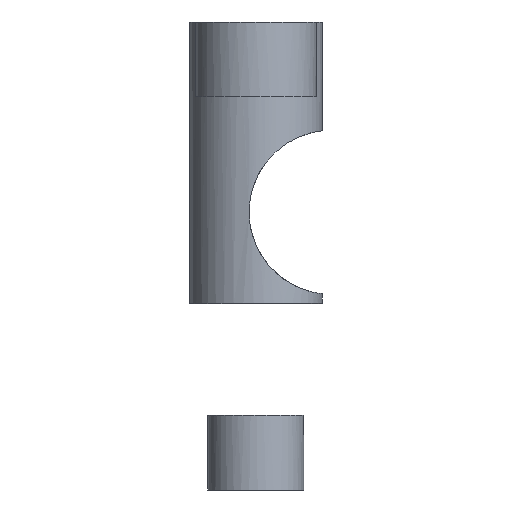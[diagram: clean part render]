
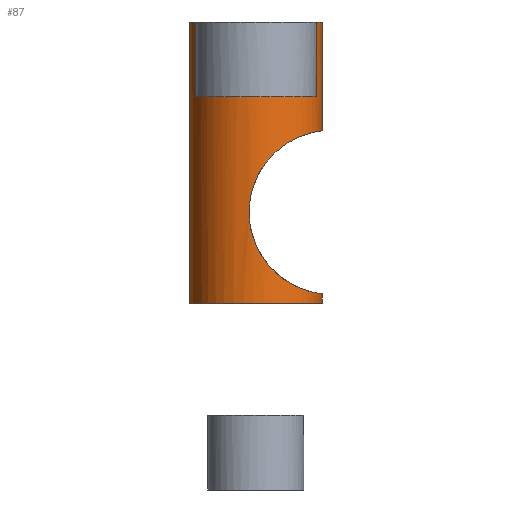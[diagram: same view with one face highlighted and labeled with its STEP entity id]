
A CAD part, left-side view. The second image highlights one B-rep face of the part: STEP entity #87.
In plain terms, the highlighted cylindrical face has radius 1.768 mm (diameter 3.537 mm), a full revolution.
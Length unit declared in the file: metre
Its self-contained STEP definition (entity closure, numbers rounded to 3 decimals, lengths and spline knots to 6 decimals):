
#22=ORIENTED_EDGE('',*,*,#33,.F.);
#23=ORIENTED_EDGE('',*,*,#34,.F.);
#24=ORIENTED_EDGE('',*,*,#35,.F.);
#33=EDGE_CURVE('',#44,#44,#53,.T.);
#34=EDGE_CURVE('',#45,#45,#54,.T.);
#35=EDGE_CURVE('',#46,#46,#55,.T.);
#44=VERTEX_POINT('',#283);
#45=VERTEX_POINT('',#303);
#46=VERTEX_POINT('',#315);
#53=B_SPLINE_CURVE_WITH_KNOTS('',3,(#272,#273,#274,#275,#276,#277,#278,
#279,#280,#281,#282),.UNSPECIFIED.,.T.,.F.,(1,1,1,1,1,1,1,1,1,1,1,1,1,1,
1),(-0.004165,-0.002777,-0.001388,0.,0.001388,
0.002777,0.004165,0.005554,0.006942,
0.008331,0.009719,0.011108,0.012496,
0.013885,0.015273),.UNSPECIFIED.);
#54=B_SPLINE_CURVE_WITH_KNOTS('',3,(#284,#285,#286,#287,#288,#289,#290,
#291,#292,#293,#294,#295,#296,#297,#298,#299,#300,#301,#302),
 .UNSPECIFIED.,.T.,.F.,(1,1,1,1,1,1,1,1,1,1,1,1,1,1,1,1,1,1,1,1,1,1,1),
(-0.00314,-0.002093,-0.001047,0.,0.001047,
0.002093,0.00314,0.004187,0.005233,
0.00628,0.007327,0.008374,0.00942,
0.010467,0.011514,0.01256,0.013607,
0.014654,0.0157,0.016747,0.017794,
0.01884,0.019887),.UNSPECIFIED.);
#55=B_SPLINE_CURVE_WITH_KNOTS('',3,(#304,#305,#306,#307,#308,#309,#310,
#311,#312,#313,#314),.UNSPECIFIED.,.T.,.F.,(1,1,1,1,1,1,1,1,1,1,1,1,1,1,
1),(-0.00417,-0.00278,-0.00139,0.,0.00139,
0.00278,0.00417,0.00556,0.00695,
0.00834,0.00973,0.01112,0.012509,
0.013899,0.015289),.UNSPECIFIED.);
#64=EDGE_LOOP('',(#22));
#65=EDGE_LOOP('',(#23));
#66=EDGE_LOOP('',(#24));
#75=FACE_BOUND('',#64,.T.);
#76=FACE_BOUND('',#65,.T.);
#77=FACE_BOUND('',#66,.T.);
#82=CYLINDRICAL_SURFACE('',#173,0.001768);
#87=ADVANCED_FACE('',(#75,#76,#77),#82,.F.);
#173=AXIS2_PLACEMENT_3D('',#271,#188,#189);
#188=DIRECTION('',(0.,0.,-1.));
#189=DIRECTION('',(-1.,0.,0.));
#271=CARTESIAN_POINT('',(0.012005,0.006358,0.025));
#272=CARTESIAN_POINT('',(0.012869,0.008117,0.0125));
#273=CARTESIAN_POINT('',(0.01386,0.006991,0.0125));
#274=CARTESIAN_POINT('',(0.013764,0.005494,0.0125));
#275=CARTESIAN_POINT('',(0.012638,0.004503,0.0125));
#276=CARTESIAN_POINT('',(0.011141,0.004599,0.0125));
#277=CARTESIAN_POINT('',(0.01015,0.005725,0.0125));
#278=CARTESIAN_POINT('',(0.010246,0.007222,0.0125));
#279=CARTESIAN_POINT('',(0.011372,0.008212,0.0125));
#280=CARTESIAN_POINT('',(0.012869,0.008117,0.0125));
#281=CARTESIAN_POINT('',(0.01386,0.006991,0.0125));
#282=CARTESIAN_POINT('',(0.013764,0.005494,0.0125));
#283=CARTESIAN_POINT('',(0.013679,0.006929,0.0125));
#284=CARTESIAN_POINT('',(0.013139,0.004861,0.009581));
#285=CARTESIAN_POINT('',(0.013738,0.005731,0.009226));
#286=CARTESIAN_POINT('',(0.013788,0.006416,0.008372));
#287=CARTESIAN_POINT('',(0.01375,0.006624,0.00732));
#288=CARTESIAN_POINT('',(0.013798,0.006324,0.006289));
#289=CARTESIAN_POINT('',(0.013679,0.005565,0.005504));
#290=CARTESIAN_POINT('',(0.01297,0.004746,0.005243));
#291=CARTESIAN_POINT('',(0.011905,0.004486,0.005244));
#292=CARTESIAN_POINT('',(0.010871,0.004861,0.005255));
#293=CARTESIAN_POINT('',(0.010272,0.00573,0.00561));
#294=CARTESIAN_POINT('',(0.010222,0.006418,0.006463));
#295=CARTESIAN_POINT('',(0.01026,0.006622,0.007516));
#296=CARTESIAN_POINT('',(0.010211,0.00633,0.008551));
#297=CARTESIAN_POINT('',(0.010332,0.005562,0.009329));
#298=CARTESIAN_POINT('',(0.011039,0.004746,0.009594));
#299=CARTESIAN_POINT('',(0.012105,0.004486,0.009592));
#300=CARTESIAN_POINT('',(0.013139,0.004861,0.009581));
#301=CARTESIAN_POINT('',(0.013738,0.005731,0.009226));
#302=CARTESIAN_POINT('',(0.013788,0.006416,0.008372));
#303=CARTESIAN_POINT('',(0.013646,0.0057,0.009143));
#304=CARTESIAN_POINT('',(0.012046,0.004398,0.004982));
#305=CARTESIAN_POINT('',(0.013419,0.005001,0.004974));
#306=CARTESIAN_POINT('',(0.013964,0.006398,0.004972));
#307=CARTESIAN_POINT('',(0.013362,0.007772,0.004971));
#308=CARTESIAN_POINT('',(0.011965,0.008317,0.004973));
#309=CARTESIAN_POINT('',(0.010591,0.007715,0.004981));
#310=CARTESIAN_POINT('',(0.010045,0.006317,0.004984));
#311=CARTESIAN_POINT('',(0.010648,0.004943,0.004985));
#312=CARTESIAN_POINT('',(0.012046,0.004398,0.004982));
#313=CARTESIAN_POINT('',(0.013419,0.005001,0.004974));
#314=CARTESIAN_POINT('',(0.013964,0.006398,0.004972));
#315=CARTESIAN_POINT('',(0.013281,0.005133,0.004975));
